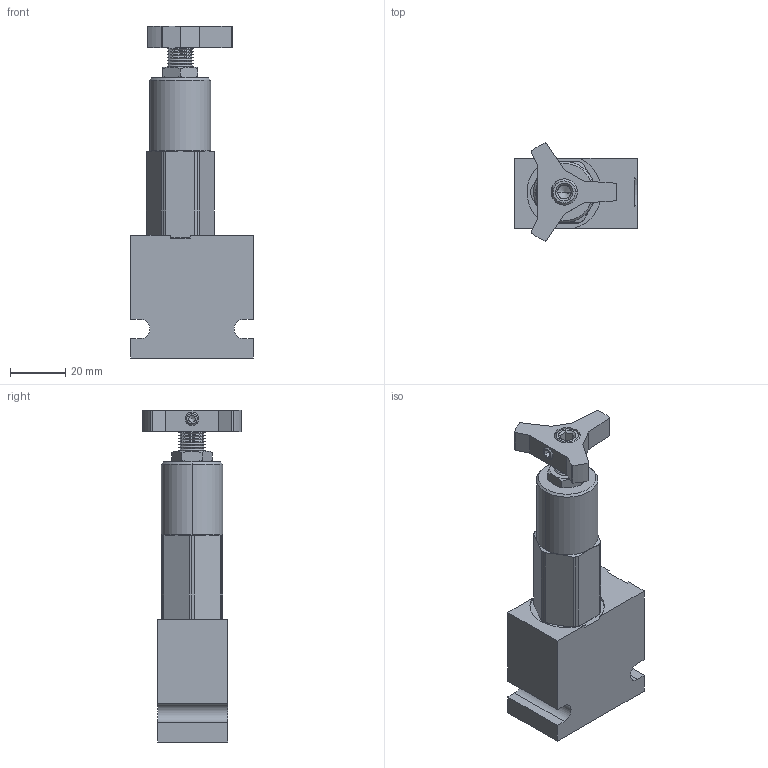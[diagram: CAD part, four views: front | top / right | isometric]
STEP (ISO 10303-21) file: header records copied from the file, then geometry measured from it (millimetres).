
FILE_DESCRIPTION( ( 'Unknown' ), '1' );
FILE_NAME( 'G:/Graphic Design/Graphic Design 2/Data Sheets/PRESSURE CONTROLS/2_STEP/Direct Acting Relief Valves/D-MARVA0K-A2.stp', 'Unknown', ( 'Unknown' ), ( 'Unknown' ), 'PSStep 16.0.42', 'Unknown', ' ' );
FILE_SCHEMA( ( 'AUTOMOTIVE_DESIGN { 1 0 10303 214 1 1 1 1 }' ) );
Length unit declared in the file: millimetre
Products named in the file (10): MARVA0K; MARVA0K-3D Full2; MARVA0K-3D Full3; MARVA0K-3D Full4; MARVA0K-3D Full5; MARVA0K-3D Full6; MARVA0K-3D Full1; Assem1; B-DMAA2L
Assembly tree (9 placements, depth 3):
  Assem1
    B-DMAA2L
    MARVA0K
      MARVA0K-3D Full2
      MARVA0K-3D Full3
      MARVA0K-3D Full4
      MARVA0K-3D Full5
      MARVA0K-3D Full6
      MARVA0K-3D Full1
      MARVA0K-3D Full1
Bounding box: 44.5 x 35.54 x 120.36 mm (x, y, z)
Surface area: 21232.1 mm2 (no closed solid volume)
Topology: 0 solids, 351 shells, 351 faces, 1623 edges, 1573 vertices
Faces by surface type: cone 141, plane 127, cylinder 79, torus 4
Full cylindrical faces by diameter (mm): 0.2 x2, 2.388 x1, 6.3 x1, 8 x1, 9.525 x1, 9.868 x1, 11.5 x4, 12.56 x1, 12.7 x1, 14.348 x2, 16.48 x1, 22.22 x1
Entity records: 22196 total; most frequent: CARTESIAN_POINT 7829, DIRECTION 2202, VERTEX_POINT 1559, ORIENTED_EDGE 1556, EDGE_CURVE 1556, AXIS2_PLACEMENT_3D 800, LINE 602, VECTOR 602
